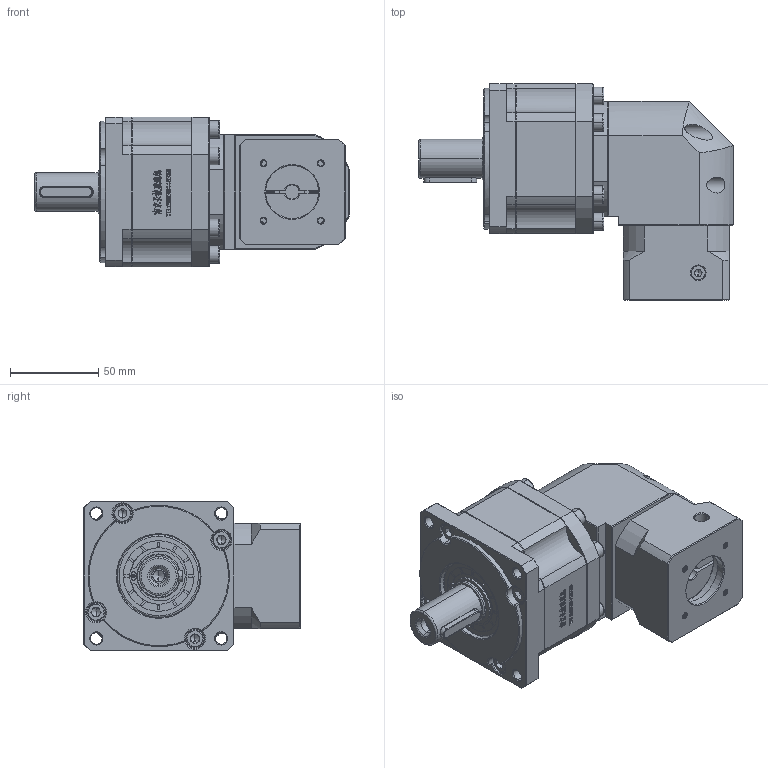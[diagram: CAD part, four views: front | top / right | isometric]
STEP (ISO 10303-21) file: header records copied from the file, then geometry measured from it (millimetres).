
FILE_DESCRIPTION (( 'STEP AP214' ), '1' );
FILE_NAME ('ZBR90-D22-L2-8-30-46-M4.step', '2022-05-07T15:20:51', ( '' ), ( 'Microsoft' ), 'SwSTEP 2.0', 'SolidWorks 2016', '' );
FILE_SCHEMA (( 'AUTOMOTIVE_DESIGN' ));
Length unit declared in the file: millimetre
Products named in the file (1): ZBR90-D22-L2-8-30-46-M4
Bounding box: 178.5 x 122.7 x 85 mm (x, y, z)
Volume: 809439 mm3; surface area: 101304.2 mm2
Topology: 5 solids, 5 shells, 3083 faces, 8296 edges, 5362 vertices
Faces by surface type: plane 1596, bspline 672, cylinder 429, cone 366, torus 20
Entity records: 184826 total; most frequent: CARTESIAN_POINT 78695, ORIENTED_EDGE 16516, DIRECTION 12486, EDGE_CURVE 8258, VERTEX_POINT 5362, LINE 5328, VECTOR 5328, AXIS2_PLACEMENT_3D 3579
